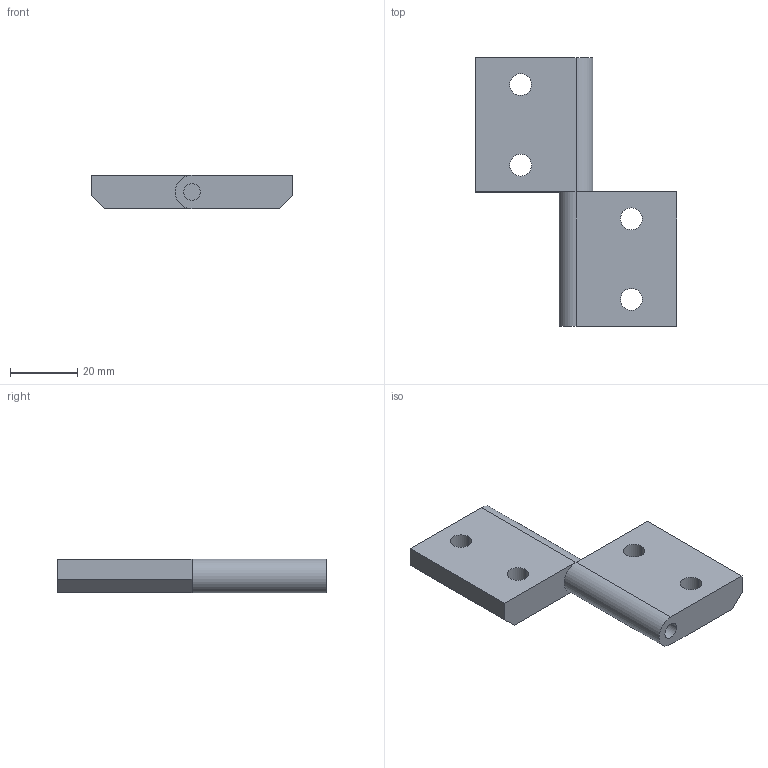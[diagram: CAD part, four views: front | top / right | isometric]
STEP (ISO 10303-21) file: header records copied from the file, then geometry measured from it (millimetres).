
FILE_DESCRIPTION((''),'2;1');
FILE_NAME('CEP3030S_ASM','2002-12-27T',('Lipro doo'),('Lipro d.o.o.'),'PRO/ENGINEER BY PARAMETRIC TECHNOLOGY CORPORATION, 2001150','PRO/ENGINEER BY PARAMETRIC TECHNOLOGY CORPORATION, 2001150','');
FILE_SCHEMA(('CONFIG_CONTROL_DESIGN'));
Length unit declared in the file: millimetre
Products named in the file (3): OS_FI5X60; CEP30_1; CEP3030S_ASM
Assembly tree (3 placements, depth 2):
  CEP3030S_ASM
    OS_FI5X60
    CEP30_1  x2
Bounding box: 60 x 80 x 10 mm (x, y, z)
Volume: 24300.9 mm3; surface area: 10608.8 mm2
Topology: 3 solids, 3 shells, 38 faces, 88 edges, 56 vertices
Faces by surface type: cylinder 16, plane 14, cone 8
Entity records: 704 total; most frequent: DIRECTION 123, CARTESIAN_POINT 104, ORIENTED_EDGE 94, AXIS2_PLACEMENT_3D 49, EDGE_CURVE 47, VERTEX_POINT 30, EDGE_LOOP 27, VECTOR 25
